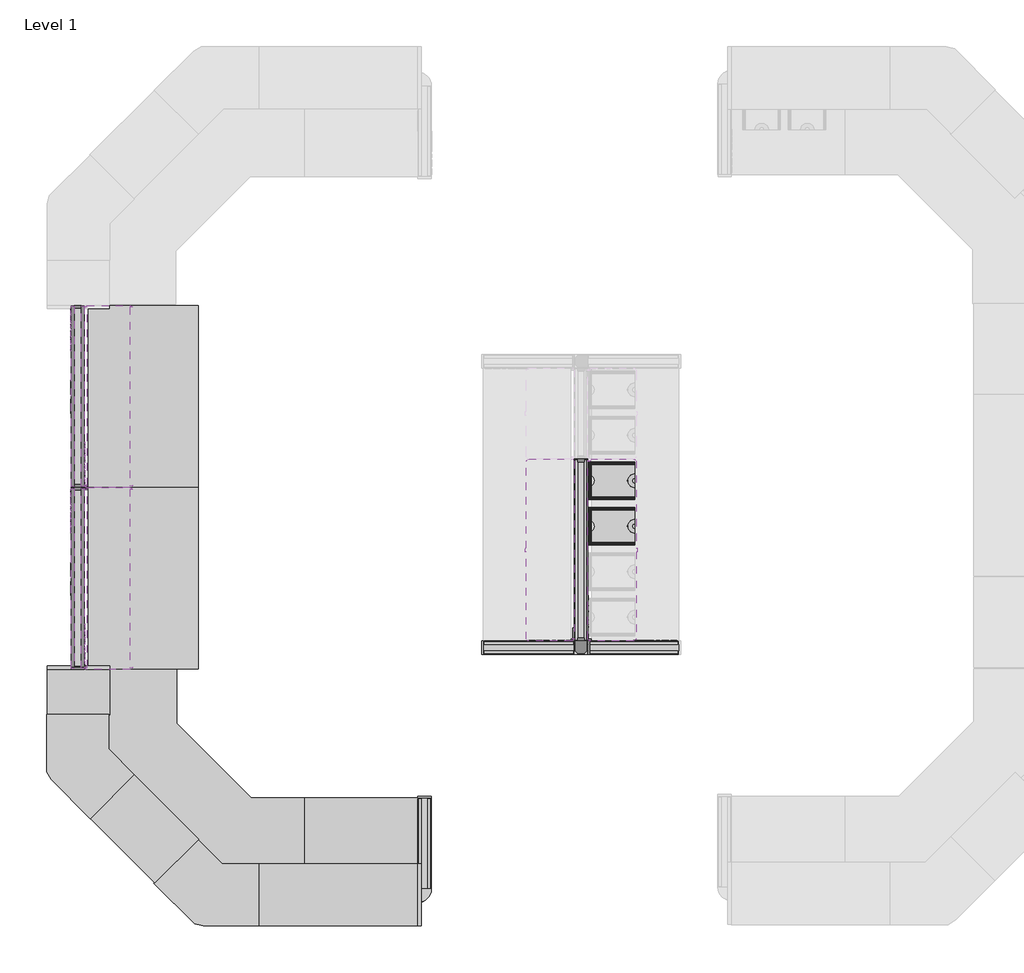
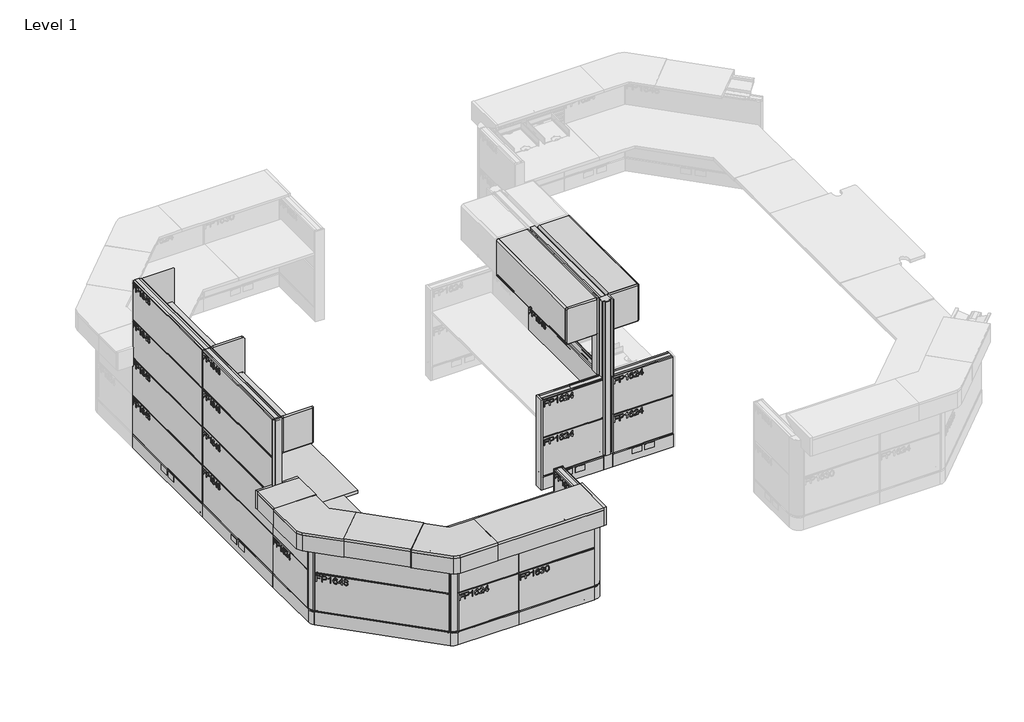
# One storey, part 1 of 3: 110 furniture elements.
"""IFC4 building model written with IfcOpenShell, lengths in millimetres."""

from ifc_helpers import new_model, si_unit, origin, place, context, project, spatial, transform, mapped, element, save
from components import furniture_050a35a8, furniture_49c90ff6, furniture_c8d20b4e, furniture_f6e7f18d, furniture_a86162da, furniture_dabdfb29, furniture_df6beef7, furniture_9c7ec0bd, furniture_8828cb60, furniture_25a45a0c, furniture_0245ad47, furniture_adfb5ce8, furniture_6d6b46e4, furniture_1e165847, furniture_f9b3eec1, furniture_44389360, furniture_d1243616, furniture_9dcc6860, furniture_4f5ec0d2, furniture_c9bda4e8, furniture_81fe7897, furniture_8bbf410e, furniture_7175fb00, furniture_e496f4a3, furniture_9ef934da, furniture_2b4b025d, furniture_bb47e685, furniture_82e04d0f, furniture_d0e672ad, furniture_481bf6a0, furniture_f3e254ba, furniture_135_deg_68790faa, furniture_135_deg_corner_e0015eda, furniture_24d_left_781ecdd2, furniture_24d_right_b8f5cfed, furniture_30d_left_232e12f7, furniture_30d_right_d35b987e, furniture_68980961, furniture_c74ffdfc, end_cap_54c5994d, lam_24d_30w_89995873, lam_30d_48w_5cb6845a, left_ebece1d7, left_d4cbb337

model = new_model("IFC4")

# Units and contexts
model_context = context("Model", 3, world=origin())
ifc_project = project(units=[si_unit("LENGTHUNIT", "METRE", prefix="MILLI")], contexts=[model_context])

# Site, building, storey
site = spatial("IfcSite", under=ifc_project)
building = spatial("IfcBuilding", under=site)
storey = spatial("IfcBuildingStorey", under=building, Name="Level 1", Elevation=0.0)

# Furniture
placement = place(None, origin())
furniture_shape = furniture_050a35a8(model_context)
element("IfcFurniture", 1, ObjectType="HermanMiller_Ethospace_EWS73_F_Sq-Edge135WorkSurfaceDouble_FrameAttached : Ptd 24D 48W", at=placement, inside=storey, context=model_context, shape_type="MappedRepresentation", body=[
    mapped(furniture_shape, transform((673.8049052, 888.3648608, 0.0), x_axis=(-1.0, 0.0, 0.0), y_axis=(0.0, -1.0, 0.0), z_axis=(0.0, 0.0, 1.0))),
])
furniture_2_shape = furniture_49c90ff6(model_context)
element("IfcFurniture", 2, ObjectType="HermanMiller_Ethospace_E3230_B-StyleShelf : 15-1/2\"H x 13\"D x 48\"W", at=placement, inside=storey, context=model_context, shape_type="MappedRepresentation", body=[
    mapped(furniture_2_shape, transform((425.83608, 3675.9186445, 0.0), x_axis=(0.0, 1.0, 0.0), y_axis=(-1.0, 0.0, 0.0), z_axis=(0.0, 0.0, 1.0))),
])
element("IfcFurniture", 3, ObjectType="HermanMiller_Ethospace_E3230_B-StyleShelf : 15-1/2\"H x 13\"D x 48\"W", at=placement, inside=storey, context=model_context, shape_type="MappedRepresentation", body=[
    mapped(furniture_2_shape, transform((425.83608, 2456.7186445, 0.0), x_axis=(0.0, 1.0, 0.0), y_axis=(-1.0, 0.0, 0.0), z_axis=(0.0, 0.0, 1.0))),
])
furniture_3_shape = furniture_c8d20b4e(model_context)
element("IfcFurniture", 4, ObjectType="HermanMiller_Ethospace_E3212_B-StyleFlipperDoorUnit : Ptd W/Lock 13\"D x 48\"W", at=placement, inside=storey, context=model_context, shape_type="MappedRepresentation", body=[
    mapped(furniture_3_shape, transform((3357.52186, 2522.99978, 0.0), x_axis=(0.0, -1.0, 0.0), y_axis=(1.0, 0.0, 0.0), z_axis=(0.0, 0.0, 1.0))),
])
element("IfcFurniture", 5, ObjectType="HermanMiller_Ethospace_E3212_B-StyleFlipperDoorUnit : Ptd W/Lock 13\"D x 48\"W", at=placement, inside=storey, context=model_context, shape_type="MappedRepresentation", body=[
    mapped(furniture_3_shape, transform((3795.67186, 2522.99978, 0.0), x_axis=(0.0, 1.0, 0.0), y_axis=(-1.0, 0.0, 0.0), z_axis=(0.0, 0.0, 1.0))),
])
furniture_4_shape = furniture_f6e7f18d(model_context)
element("IfcFurniture", 6, ObjectType="HermanMiller_Ethospace_E2830_SqEdgeCounterTop : 7-1/2\"H x 16-3/8\"D x 42\"W", at=placement, inside=storey, context=model_context, shape_type="MappedRepresentation", body=[
    mapped(furniture_4_shape, transform((1951.13402, 211.78266, 0.0), x_axis=(-1.0, 0.0, 0.0), y_axis=(0.0, -1.0, 0.0), z_axis=(0.0, 0.0, 1.0))),
])
furniture_5_shape = furniture_a86162da(model_context)
element("IfcFurniture", 7, ObjectType="HermanMiller_Ethospace_E2830_SqEdgeCounterTop : 7-1/2\"H x 16-3/8\"D x 24\"W", at=placement, inside=storey, context=model_context, shape_type="MappedRepresentation", body=[
    mapped(furniture_5_shape, transform((654.4192656, 654.4538794, 0.0), x_axis=(-0.7071067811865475, 0.7071067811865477, 0.0), y_axis=(-0.7071067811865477, -0.7071067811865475, 0.0), z_axis=(0.0, 0.0, 1.0))),
])
furniture_6_shape = furniture_dabdfb29(model_context)
element("IfcFurniture", 8, ObjectType="HermanMiller_Ethospace_E2830_SqEdgeCounterTop : 7-1/2\"H x 16-3/8\"D x 12\"W", at=placement, inside=storey, context=model_context, shape_type="MappedRepresentation", body=[
    mapped(furniture_6_shape, transform((211.14766, 1570.77664, 0.0), x_axis=(0.0, 1.0, 0.0), y_axis=(-1.0, 0.0, 0.0), z_axis=(0.0, 0.0, 1.0))),
])
furniture_7_shape = furniture_df6beef7(model_context)
element("IfcFurniture", 9, ObjectType="HermanMiller_Ethospace_E2827_CounterTopSupport : 48\"W W/Light", at=placement, inside=storey, context=model_context, shape_type="MappedRepresentation", body=[
    mapped(furniture_7_shape, transform((659.4278787, 660.0686064, 0.0), x_axis=(-0.7071067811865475, 0.7071067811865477, 0.0), y_axis=(-0.7071067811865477, -0.7071067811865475, 0.0), z_axis=(0.0, 0.0, 1.0))),
])
furniture_8_shape = furniture_9c7ec0bd(model_context)
element("IfcFurniture", 10, ObjectType="HermanMiller_Ethospace_E2827_CounterTopSupport : 30\"W W/Light", at=placement, inside=storey, context=model_context, shape_type="MappedRepresentation", body=[
    mapped(furniture_8_shape, transform((2103.53402, 219.72016, 0.0), x_axis=(-1.0, 0.0, 0.0), y_axis=(0.0, -1.0, 0.0), z_axis=(0.0, 0.0, 1.0))),
])
furniture_9_shape = furniture_8828cb60(model_context)
element("IfcFurniture", 11, ObjectType="HermanMiller_Ethospace_E2827_CounterTopSupport : 24\"W W/Light", at=placement, inside=storey, context=model_context, shape_type="MappedRepresentation", body=[
    mapped(furniture_9_shape, transform((219.08516, 1418.37664, 0.0), x_axis=(0.0, 1.0, 0.0), y_axis=(-1.0, 0.0, 0.0), z_axis=(0.0, 0.0, 1.0))),
])
element("IfcFurniture", 12, ObjectType="HermanMiller_Ethospace_E2827_CounterTopSupport : 24\"W W/Light", at=placement, inside=storey, context=model_context, shape_type="MappedRepresentation", body=[
    mapped(furniture_9_shape, transform((1418.32838, 219.72016, 0.0), x_axis=(-1.0, 0.0, 0.0), y_axis=(0.0, -1.0, 0.0), z_axis=(0.0, 0.0, 1.0))),
])
furniture_10_shape = furniture_25a45a0c(model_context)
element("IfcFurniture", 13, ObjectType="HermanMiller_Ethospace_E1425_RailTile : 08\"H x 48\"W", at=placement, inside=storey, context=model_context, shape_type="MappedRepresentation", body=[
    mapped(furniture_10_shape, transform((3598.82186, 2522.99978, 0.0), x_axis=(0.0, 1.0, 0.0), y_axis=(-1.0, 0.0, 0.0), z_axis=(0.0, 0.0, 1.0))),
])
furniture_11_shape = furniture_0245ad47(model_context)
element("IfcFurniture", 14, ObjectType="HermanMiller_Ethospace_E1420_FaceTile : Ptd 16\"H x 48\"W", at=placement, inside=storey, context=model_context, shape_type="MappedRepresentation", body=[
    mapped(furniture_11_shape, transform((628.0001657, 628.642138, 0.0), x_axis=(0.7071067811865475, -0.7071067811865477, 0.0), y_axis=(0.7071067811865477, 0.7071067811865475, 0.0), z_axis=(0.0, 0.0, 1.0))),
])
element("IfcFurniture", 15, ObjectType="HermanMiller_Ethospace_E1420_FaceTile : Ptd 16\"H x 48\"W", at=placement, inside=storey, context=model_context, shape_type="MappedRepresentation", body=[
    mapped(furniture_11_shape, transform((671.2174543, 671.860722, 0.0), x_axis=(-0.7071067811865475, 0.7071067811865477, 0.0), y_axis=(-0.7071067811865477, -0.7071067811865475, 0.0), z_axis=(0.0, 0.0, 1.0))),
])
element("IfcFurniture", 16, ObjectType="HermanMiller_Ethospace_E1420_FaceTile : Ptd 16\"H x 48\"W", at=placement, inside=storey, context=model_context, shape_type="MappedRepresentation", body=[
    mapped(furniture_11_shape, transform((174.6300739, 2332.77664, 0.0), x_axis=(0.0, -1.0, 0.0), y_axis=(1.0, 0.0, 0.0), z_axis=(0.0, 0.0, 1.0))),
])
element("IfcFurniture", 17, ObjectType="HermanMiller_Ethospace_E1420_FaceTile : Ptd 16\"H x 48\"W", at=placement, inside=storey, context=model_context, shape_type="MappedRepresentation", body=[
    mapped(furniture_11_shape, transform((238.1300861, 2332.77664, 0.0), x_axis=(0.0, 1.0, 0.0), y_axis=(-1.0, 0.0, 0.0), z_axis=(0.0, 0.0, 1.0))),
])
element("IfcFurniture", 18, ObjectType="HermanMiller_Ethospace_E1420_FaceTile : Ptd 16\"H x 48\"W", at=placement, inside=storey, context=model_context, shape_type="MappedRepresentation", body=[
    mapped(furniture_11_shape, transform((174.6300739, 3551.97664, 0.0), x_axis=(0.0, -1.0, 0.0), y_axis=(1.0, 0.0, 0.0), z_axis=(0.0, 0.0, 1.0))),
])
element("IfcFurniture", 19, ObjectType="HermanMiller_Ethospace_E1420_FaceTile : Ptd 16\"H x 48\"W", at=placement, inside=storey, context=model_context, shape_type="MappedRepresentation", body=[
    mapped(furniture_11_shape, transform((238.1300861, 3551.97664, 0.0), x_axis=(0.0, 1.0, 0.0), y_axis=(-1.0, 0.0, 0.0), z_axis=(0.0, 0.0, 1.0))),
])
element("IfcFurniture", 20, ObjectType="HermanMiller_Ethospace_E1420_FaceTile : Ptd 16\"H x 48\"W", at=placement, inside=storey, context=model_context, shape_type="MappedRepresentation", body=[
    mapped(furniture_11_shape, transform((3544.8468539, 2522.99978, 0.0), x_axis=(0.0, -1.0, 0.0), y_axis=(1.0, 0.0, 0.0), z_axis=(0.0, 0.0, 1.0))),
])
element("IfcFurniture", 21, ObjectType="HermanMiller_Ethospace_E1420_FaceTile : Ptd 16\"H x 48\"W", at=placement, inside=storey, context=model_context, shape_type="MappedRepresentation", body=[
    mapped(furniture_11_shape, transform((3608.3468661, 2522.99978, 0.0), x_axis=(0.0, 1.0, 0.0), y_axis=(-1.0, 0.0, 0.0), z_axis=(0.0, 0.0, 1.0))),
])
element("IfcFurniture", 22, ObjectType="HermanMiller_Ethospace_E1420_FaceTile : Ptd 16\"H x 48\"W", at=placement, inside=storey, context=model_context, shape_type="MappedRepresentation", body=[
    mapped(furniture_11_shape, transform((3544.8468539, 2522.99978, 0.0), x_axis=(0.0, -1.0, 0.0), y_axis=(1.0, 0.0, 0.0), z_axis=(0.0, 0.0, 1.0))),
])
element("IfcFurniture", 23, ObjectType="HermanMiller_Ethospace_E1420_FaceTile : Ptd 16\"H x 48\"W", at=placement, inside=storey, context=model_context, shape_type="MappedRepresentation", body=[
    mapped(furniture_11_shape, transform((3608.3468661, 2522.99978, 0.0), x_axis=(0.0, 1.0, 0.0), y_axis=(-1.0, 0.0, 0.0), z_axis=(0.0, 0.0, 1.0))),
])
furniture_12_shape = furniture_adfb5ce8(model_context)
element("IfcFurniture", 24, ObjectType="HermanMiller_Ethospace_E1420_FaceTile : Ptd 16\"H x 48\"W", at=placement, inside=storey, context=model_context, shape_type="MappedRepresentation", body=[
    mapped(furniture_12_shape, transform((671.2174543, 671.860722, 0.0), x_axis=(-0.7071067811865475, 0.7071067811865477, 0.0), y_axis=(-0.7071067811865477, -0.7071067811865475, 0.0), z_axis=(0.0, 0.0, 1.0))),
])
element("IfcFurniture", 25, ObjectType="HermanMiller_Ethospace_E1420_FaceTile : Ptd 16\"H x 48\"W", at=placement, inside=storey, context=model_context, shape_type="MappedRepresentation", body=[
    mapped(furniture_12_shape, transform((628.0001657, 628.642138, 0.0), x_axis=(0.7071067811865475, -0.7071067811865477, 0.0), y_axis=(0.7071067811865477, 0.7071067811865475, 0.0), z_axis=(0.0, 0.0, 1.0))),
])
element("IfcFurniture", 26, ObjectType="HermanMiller_Ethospace_E1420_FaceTile : Ptd 16\"H x 48\"W", at=placement, inside=storey, context=model_context, shape_type="MappedRepresentation", body=[
    mapped(furniture_12_shape, transform((174.6300739, 2332.77664, 0.0), x_axis=(0.0, -1.0, 0.0), y_axis=(1.0, 0.0, 0.0), z_axis=(0.0, 0.0, 1.0))),
])
element("IfcFurniture", 27, ObjectType="HermanMiller_Ethospace_E1420_FaceTile : Ptd 16\"H x 48\"W", at=placement, inside=storey, context=model_context, shape_type="MappedRepresentation", body=[
    mapped(furniture_12_shape, transform((238.1300861, 2332.77664, 0.0), x_axis=(0.0, 1.0, 0.0), y_axis=(-1.0, 0.0, 0.0), z_axis=(0.0, 0.0, 1.0))),
])
element("IfcFurniture", 28, ObjectType="HermanMiller_Ethospace_E1420_FaceTile : Ptd 16\"H x 48\"W", at=placement, inside=storey, context=model_context, shape_type="MappedRepresentation", body=[
    mapped(furniture_12_shape, transform((238.1300861, 3551.97664, 0.0), x_axis=(0.0, 1.0, 0.0), y_axis=(-1.0, 0.0, 0.0), z_axis=(0.0, 0.0, 1.0))),
])
element("IfcFurniture", 29, ObjectType="HermanMiller_Ethospace_E1420_FaceTile : Ptd 16\"H x 48\"W", at=placement, inside=storey, context=model_context, shape_type="MappedRepresentation", body=[
    mapped(furniture_12_shape, transform((174.6300739, 3551.97664, 0.0), x_axis=(0.0, -1.0, 0.0), y_axis=(1.0, 0.0, 0.0), z_axis=(0.0, 0.0, 1.0))),
])
element("IfcFurniture", 30, ObjectType="HermanMiller_Ethospace_E1420_FaceTile : Ptd 16\"H x 48\"W", at=placement, inside=storey, context=model_context, shape_type="MappedRepresentation", body=[
    mapped(furniture_12_shape, transform((3544.8468539, 2522.99978, 0.0), x_axis=(0.0, -1.0, 0.0), y_axis=(1.0, 0.0, 0.0), z_axis=(0.0, 0.0, 1.0))),
])
furniture_13_shape = furniture_6d6b46e4(model_context)
element("IfcFurniture", 31, ObjectType="HermanMiller_Ethospace_E1420_FaceTile : Ptd 16\"H x 48\"W", at=placement, inside=storey, context=model_context, shape_type="MappedRepresentation", body=[
    mapped(furniture_13_shape, transform((238.1300861, 2332.77664, 0.0), x_axis=(0.0, 1.0, 0.0), y_axis=(-1.0, 0.0, 0.0), z_axis=(0.0, 0.0, 1.0))),
])
element("IfcFurniture", 32, ObjectType="HermanMiller_Ethospace_E1420_FaceTile : Ptd 16\"H x 48\"W", at=placement, inside=storey, context=model_context, shape_type="MappedRepresentation", body=[
    mapped(furniture_13_shape, transform((174.6300739, 2332.77664, 0.0), x_axis=(0.0, -1.0, 0.0), y_axis=(1.0, 0.0, 0.0), z_axis=(0.0, 0.0, 1.0))),
])
element("IfcFurniture", 33, ObjectType="HermanMiller_Ethospace_E1420_FaceTile : Ptd 16\"H x 48\"W", at=placement, inside=storey, context=model_context, shape_type="MappedRepresentation", body=[
    mapped(furniture_13_shape, transform((238.1300861, 3551.97664, 0.0), x_axis=(0.0, 1.0, 0.0), y_axis=(-1.0, 0.0, 0.0), z_axis=(0.0, 0.0, 1.0))),
])
element("IfcFurniture", 34, ObjectType="HermanMiller_Ethospace_E1420_FaceTile : Ptd 16\"H x 48\"W", at=placement, inside=storey, context=model_context, shape_type="MappedRepresentation", body=[
    mapped(furniture_13_shape, transform((174.6300739, 3551.97664, 0.0), x_axis=(0.0, -1.0, 0.0), y_axis=(1.0, 0.0, 0.0), z_axis=(0.0, 0.0, 1.0))),
])
furniture_14_shape = furniture_1e165847(model_context)
element("IfcFurniture", 35, ObjectType="HermanMiller_Ethospace_E1420_FaceTile : Ptd 16\"H x 48\"W", at=placement, inside=storey, context=model_context, shape_type="MappedRepresentation", body=[
    mapped(furniture_14_shape, transform((238.1300861, 2332.77664, 0.0), x_axis=(0.0, 1.0, 0.0), y_axis=(-1.0, 0.0, 0.0), z_axis=(0.0, 0.0, 1.0))),
])
element("IfcFurniture", 36, ObjectType="HermanMiller_Ethospace_E1420_FaceTile : Ptd 16\"H x 48\"W", at=placement, inside=storey, context=model_context, shape_type="MappedRepresentation", body=[
    mapped(furniture_14_shape, transform((174.6300739, 2332.77664, 0.0), x_axis=(0.0, -1.0, 0.0), y_axis=(1.0, 0.0, 0.0), z_axis=(0.0, 0.0, 1.0))),
])
element("IfcFurniture", 37, ObjectType="HermanMiller_Ethospace_E1420_FaceTile : Ptd 16\"H x 48\"W", at=placement, inside=storey, context=model_context, shape_type="MappedRepresentation", body=[
    mapped(furniture_14_shape, transform((174.6300739, 3551.97664, 0.0), x_axis=(0.0, -1.0, 0.0), y_axis=(1.0, 0.0, 0.0), z_axis=(0.0, 0.0, 1.0))),
])
element("IfcFurniture", 38, ObjectType="HermanMiller_Ethospace_E1420_FaceTile : Ptd 16\"H x 48\"W", at=placement, inside=storey, context=model_context, shape_type="MappedRepresentation", body=[
    mapped(furniture_14_shape, transform((238.1300861, 3551.97664, 0.0), x_axis=(0.0, 1.0, 0.0), y_axis=(-1.0, 0.0, 0.0), z_axis=(0.0, 0.0, 1.0))),
])
furniture_15_shape = furniture_f9b3eec1(model_context)
element("IfcFurniture", 39, ObjectType="HermanMiller_Ethospace_E1420_FaceTile : Ptd 16\"H x 30\"W", at=placement, inside=storey, context=model_context, shape_type="MappedRepresentation", body=[
    mapped(furniture_15_shape, transform((2103.53402, 175.2701539, 0.0), x_axis=(1.0, 0.0, 0.0), y_axis=(0.0, 1.0, 0.0), z_axis=(0.0, 0.0, 1.0))),
])
element("IfcFurniture", 40, ObjectType="HermanMiller_Ethospace_E1420_FaceTile : Ptd 16\"H x 30\"W", at=placement, inside=storey, context=model_context, shape_type="MappedRepresentation", body=[
    mapped(furniture_15_shape, transform((2103.53402, 238.7701661, 0.0), x_axis=(-1.0, 0.0, 0.0), y_axis=(0.0, -1.0, 0.0), z_axis=(0.0, 0.0, 1.0))),
])
furniture_16_shape = furniture_44389360(model_context)
element("IfcFurniture", 41, ObjectType="HermanMiller_Ethospace_E1420_FaceTile : Ptd 16\"H x 30\"W", at=placement, inside=storey, context=model_context, shape_type="MappedRepresentation", body=[
    mapped(furniture_16_shape, transform((2103.53402, 175.2701539, 0.0), x_axis=(1.0, 0.0, 0.0), y_axis=(0.0, 1.0, 0.0), z_axis=(0.0, 0.0, 1.0))),
])
element("IfcFurniture", 42, ObjectType="HermanMiller_Ethospace_E1420_FaceTile : Ptd 16\"H x 30\"W", at=placement, inside=storey, context=model_context, shape_type="MappedRepresentation", body=[
    mapped(furniture_16_shape, transform((2103.53402, 238.7701661, 0.0), x_axis=(-1.0, 0.0, 0.0), y_axis=(0.0, -1.0, 0.0), z_axis=(0.0, 0.0, 1.0))),
])
furniture_17_shape = furniture_d1243616(model_context)
element("IfcFurniture", 43, ObjectType="HermanMiller_Ethospace_E1420_FaceTile : Ptd 16\"H x 24\"W", at=placement, inside=storey, context=model_context, shape_type="MappedRepresentation", body=[
    mapped(furniture_17_shape, transform((2559.9415461, 556.27016, 0.0), x_axis=(0.0, 1.0, 0.0), y_axis=(-1.0, 0.0, 0.0), z_axis=(0.0, 0.0, 1.0))),
])
element("IfcFurniture", 44, ObjectType="HermanMiller_Ethospace_E1420_FaceTile : Ptd 16\"H x 24\"W", at=placement, inside=storey, context=model_context, shape_type="MappedRepresentation", body=[
    mapped(furniture_17_shape, transform((2497.2340139, 556.27016, 0.0), x_axis=(0.0, -1.0, 0.0), y_axis=(1.0, 0.0, 0.0), z_axis=(0.0, 0.0, 1.0))),
])
element("IfcFurniture", 45, ObjectType="HermanMiller_Ethospace_E1420_FaceTile : Ptd 16\"H x 24\"W", at=placement, inside=storey, context=model_context, shape_type="MappedRepresentation", body=[
    mapped(furniture_17_shape, transform((174.6300739, 1418.37664, 0.0), x_axis=(0.0, -1.0, 0.0), y_axis=(1.0, 0.0, 0.0), z_axis=(0.0, 0.0, 1.0))),
])
element("IfcFurniture", 46, ObjectType="HermanMiller_Ethospace_E1420_FaceTile : Ptd 16\"H x 24\"W", at=placement, inside=storey, context=model_context, shape_type="MappedRepresentation", body=[
    mapped(furniture_17_shape, transform((238.1300861, 1418.37664, 0.0), x_axis=(0.0, 1.0, 0.0), y_axis=(-1.0, 0.0, 0.0), z_axis=(0.0, 0.0, 1.0))),
])
element("IfcFurniture", 47, ObjectType="HermanMiller_Ethospace_E1420_FaceTile : Ptd 16\"H x 24\"W", at=placement, inside=storey, context=model_context, shape_type="MappedRepresentation", body=[
    mapped(furniture_17_shape, transform((1417.73402, 175.2701539, 0.0), x_axis=(1.0, 0.0, 0.0), y_axis=(0.0, 1.0, 0.0), z_axis=(0.0, 0.0, 1.0))),
])
element("IfcFurniture", 48, ObjectType="HermanMiller_Ethospace_E1420_FaceTile : Ptd 16\"H x 24\"W", at=placement, inside=storey, context=model_context, shape_type="MappedRepresentation", body=[
    mapped(furniture_17_shape, transform((1417.73402, 238.7701661, 0.0), x_axis=(-1.0, 0.0, 0.0), y_axis=(0.0, -1.0, 0.0), z_axis=(0.0, 0.0, 1.0))),
])
element("IfcFurniture", 49, ObjectType="HermanMiller_Ethospace_E1420_FaceTile : Ptd 16\"H x 24\"W", at=placement, inside=storey, context=model_context, shape_type="MappedRepresentation", body=[
    mapped(furniture_17_shape, transform((3227.34686, 1900.6997861, 0.0), x_axis=(-1.0, 0.0, 0.0), y_axis=(0.0, -1.0, 0.0), z_axis=(0.0, 0.0, 1.0))),
])
element("IfcFurniture", 50, ObjectType="HermanMiller_Ethospace_E1420_FaceTile : Ptd 16\"H x 24\"W", at=placement, inside=storey, context=model_context, shape_type="MappedRepresentation", body=[
    mapped(furniture_17_shape, transform((3227.34686, 1837.1997739, 0.0), x_axis=(1.0, 0.0, 0.0), y_axis=(0.0, 1.0, 0.0), z_axis=(0.0, 0.0, 1.0))),
])
element("IfcFurniture", 51, ObjectType="HermanMiller_Ethospace_E1420_FaceTile : Ptd 16\"H x 24\"W", at=placement, inside=storey, context=model_context, shape_type="MappedRepresentation", body=[
    mapped(furniture_17_shape, transform((3925.84686, 1900.6997861, 0.0), x_axis=(-1.0, 0.0, 0.0), y_axis=(0.0, -1.0, 0.0), z_axis=(0.0, 0.0, 1.0))),
])
element("IfcFurniture", 52, ObjectType="HermanMiller_Ethospace_E1420_FaceTile : Ptd 16\"H x 24\"W", at=placement, inside=storey, context=model_context, shape_type="MappedRepresentation", body=[
    mapped(furniture_17_shape, transform((3925.84686, 1837.1997739, 0.0), x_axis=(1.0, 0.0, 0.0), y_axis=(0.0, 1.0, 0.0), z_axis=(0.0, 0.0, 1.0))),
])
furniture_18_shape = furniture_9dcc6860(model_context)
element("IfcFurniture", 53, ObjectType="HermanMiller_Ethospace_E1420_FaceTile : Ptd 16\"H x 24\"W", at=placement, inside=storey, context=model_context, shape_type="MappedRepresentation", body=[
    mapped(furniture_18_shape, transform((1417.73402, 238.7701661, 0.0), x_axis=(-1.0, 0.0, 0.0), y_axis=(0.0, -1.0, 0.0), z_axis=(0.0, 0.0, 1.0))),
])
element("IfcFurniture", 54, ObjectType="HermanMiller_Ethospace_E1420_FaceTile : Ptd 16\"H x 24\"W", at=placement, inside=storey, context=model_context, shape_type="MappedRepresentation", body=[
    mapped(furniture_18_shape, transform((2559.9415461, 556.27016, 0.0), x_axis=(0.0, 1.0, 0.0), y_axis=(-1.0, 0.0, 0.0), z_axis=(0.0, 0.0, 1.0))),
])
element("IfcFurniture", 55, ObjectType="HermanMiller_Ethospace_E1420_FaceTile : Ptd 16\"H x 24\"W", at=placement, inside=storey, context=model_context, shape_type="MappedRepresentation", body=[
    mapped(furniture_18_shape, transform((2497.2340139, 556.27016, 0.0), x_axis=(0.0, -1.0, 0.0), y_axis=(1.0, 0.0, 0.0), z_axis=(0.0, 0.0, 1.0))),
])
element("IfcFurniture", 56, ObjectType="HermanMiller_Ethospace_E1420_FaceTile : Ptd 16\"H x 24\"W", at=placement, inside=storey, context=model_context, shape_type="MappedRepresentation", body=[
    mapped(furniture_18_shape, transform((238.1300861, 1418.37664, 0.0), x_axis=(0.0, 1.0, 0.0), y_axis=(-1.0, 0.0, 0.0), z_axis=(0.0, 0.0, 1.0))),
])
element("IfcFurniture", 57, ObjectType="HermanMiller_Ethospace_E1420_FaceTile : Ptd 16\"H x 24\"W", at=placement, inside=storey, context=model_context, shape_type="MappedRepresentation", body=[
    mapped(furniture_18_shape, transform((174.6300739, 1418.37664, 0.0), x_axis=(0.0, -1.0, 0.0), y_axis=(1.0, 0.0, 0.0), z_axis=(0.0, 0.0, 1.0))),
])
element("IfcFurniture", 58, ObjectType="HermanMiller_Ethospace_E1420_FaceTile : Ptd 16\"H x 24\"W", at=placement, inside=storey, context=model_context, shape_type="MappedRepresentation", body=[
    mapped(furniture_18_shape, transform((1417.73402, 175.2701539, 0.0), x_axis=(1.0, 0.0, 0.0), y_axis=(0.0, 1.0, 0.0), z_axis=(0.0, 0.0, 1.0))),
])
element("IfcFurniture", 59, ObjectType="HermanMiller_Ethospace_E1420_FaceTile : Ptd 16\"H x 24\"W", at=placement, inside=storey, context=model_context, shape_type="MappedRepresentation", body=[
    mapped(furniture_18_shape, transform((3227.34686, 1900.6997861, 0.0), x_axis=(-1.0, 0.0, 0.0), y_axis=(0.0, -1.0, 0.0), z_axis=(0.0, 0.0, 1.0))),
])
element("IfcFurniture", 60, ObjectType="HermanMiller_Ethospace_E1420_FaceTile : Ptd 16\"H x 24\"W", at=placement, inside=storey, context=model_context, shape_type="MappedRepresentation", body=[
    mapped(furniture_18_shape, transform((3227.34686, 1837.1997739, 0.0), x_axis=(1.0, 0.0, 0.0), y_axis=(0.0, 1.0, 0.0), z_axis=(0.0, 0.0, 1.0))),
])
element("IfcFurniture", 61, ObjectType="HermanMiller_Ethospace_E1420_FaceTile : Ptd 16\"H x 24\"W", at=placement, inside=storey, context=model_context, shape_type="MappedRepresentation", body=[
    mapped(furniture_18_shape, transform((3925.84686, 1900.6997861, 0.0), x_axis=(-1.0, 0.0, 0.0), y_axis=(0.0, -1.0, 0.0), z_axis=(0.0, 0.0, 1.0))),
])
element("IfcFurniture", 62, ObjectType="HermanMiller_Ethospace_E1420_FaceTile : Ptd 16\"H x 24\"W", at=placement, inside=storey, context=model_context, shape_type="MappedRepresentation", body=[
    mapped(furniture_18_shape, transform((3925.84686, 1837.1997739, 0.0), x_axis=(1.0, 0.0, 0.0), y_axis=(0.0, 1.0, 0.0), z_axis=(0.0, 0.0, 1.0))),
])
furniture_19_shape = furniture_4f5ec0d2(model_context)
element("IfcFurniture", 63, ObjectType="HermanMiller_Ethospace_E1420_FaceTile : Ptd 08\"H x 48\"W", at=placement, inside=storey, context=model_context, shape_type="MappedRepresentation", body=[
    mapped(furniture_19_shape, transform((3608.3468661, 2522.99978, 0.0), x_axis=(0.0, 1.0, 0.0), y_axis=(-1.0, 0.0, 0.0), z_axis=(0.0, 0.0, 1.0))),
])
furniture_20_shape = furniture_c9bda4e8(model_context)
element("IfcFurniture", 64, ObjectType="HermanMiller_Ethospace_E1251_FinishedEndChangeOfHeight : Std Ptd 32\"H", at=placement, inside=storey, context=model_context, shape_type="MappedRepresentation", body=[
    mapped(furniture_20_shape, transform((3526.7762582, 1952.0535744, 0.0), x_axis=(-1.0, 0.0, 0.0), y_axis=(0.0, -1.0, 0.0), z_axis=(0.0, 0.0, 1.0))),
])
element("IfcFurniture", 65, ObjectType="HermanMiller_Ethospace_E1251_FinishedEndChangeOfHeight : Std Ptd 32\"H", at=placement, inside=storey, context=model_context, shape_type="MappedRepresentation", body=[
    mapped(furniture_20_shape, transform((3626.4301618, 1874.7459856, 0.0), x_axis=(1.0, 0.0, 0.0), y_axis=(0.0, 1.0, 0.0), z_axis=(0.0, 0.0, 1.0))),
])
furniture_21_shape = furniture_81fe7897(model_context)
element("IfcFurniture", 66, ObjectType="HermanMiller_Ethospace_E1251_FinishedEndChangeOfHeight : Std Ptd 28\"H", at=placement, inside=storey, context=model_context, shape_type="MappedRepresentation", body=[
    mapped(furniture_21_shape, transform((211.8206856, 1730.5060382, 0.0), x_axis=(0.0, -1.0, 0.0), y_axis=(1.0, 0.0, 0.0), z_axis=(0.0, 0.0, 1.0))),
])
furniture_22_shape = furniture_8bbf410e(model_context)
element("IfcFurniture", 67, ObjectType="HermanMiller_Ethospace_E1250_FinishedEnd : Std Ptd 38\"H", at=placement, inside=storey, context=model_context, shape_type="MappedRepresentation", body=[
    mapped(furniture_22_shape, transform((2522.3953344, 866.5855418, 0.0), x_axis=(0.0, 1.0, 0.0), y_axis=(-1.0, 0.0, 0.0), z_axis=(0.0, 0.0, 1.0))),
])
element("IfcFurniture", 68, ObjectType="HermanMiller_Ethospace_E1250_FinishedEnd : Std Ptd 38\"H", at=placement, inside=storey, context=model_context, shape_type="MappedRepresentation", body=[
    mapped(furniture_22_shape, transform((2917.1762582, 1863.1535744, 0.0), x_axis=(-1.0, 0.0, 0.0), y_axis=(0.0, -1.0, 0.0), z_axis=(0.0, 0.0, 1.0))),
])
furniture_23_shape = furniture_7175fb00(model_context)
element("IfcFurniture", 69, ObjectType="HermanMiller_Ethospace_E1220_90DegreeConnector : Vnyl 70\"H 3-Way-N", at=placement, inside=storey, context=model_context, shape_type="MappedRepresentation", body=[
    mapped(furniture_23_shape, transform((3551.1968581, 1860.7845699, 0.0), x_axis=(1.0, 0.0, 0.0), y_axis=(0.0, 1.0, 0.0), z_axis=(0.0, 0.0, 1.0))),
])
furniture_24_shape = furniture_e496f4a3(model_context)
element("IfcFurniture", 70, ObjectType="HermanMiller_Ethospace_E1220_90DegreeConnector : Vnyl 38\"H 2-Way Rds-N", at=placement, inside=storey, context=model_context, shape_type="MappedRepresentation", body=[
    mapped(furniture_24_shape, transform((2520.8188099, 232.4201619, 0.0), x_axis=(0.0, -1.0, 0.0), y_axis=(1.0, 0.0, 0.0), z_axis=(0.0, 0.0, 1.0))),
])
furniture_25_shape = furniture_9ef934da(model_context)
element("IfcFurniture", 71, ObjectType="HermanMiller_Ethospace_E1109_Frame : 70\"H x 48\"W-H", at=placement, inside=storey, context=model_context, shape_type="MappedRepresentation", body=[
    mapped(furniture_25_shape, transform((206.38008, 2332.77664, 0.0), x_axis=(0.0, -1.0, 0.0), y_axis=(1.0, 0.0, 0.0), z_axis=(0.0, 0.0, 1.0))),
])
element("IfcFurniture", 72, ObjectType="HermanMiller_Ethospace_E1109_Frame : 70\"H x 48\"W-H", at=placement, inside=storey, context=model_context, shape_type="MappedRepresentation", body=[
    mapped(furniture_25_shape, transform((206.38008, 3551.97664, 0.0), x_axis=(0.0, -1.0, 0.0), y_axis=(1.0, 0.0, 0.0), z_axis=(0.0, 0.0, 1.0))),
])
element("IfcFurniture", 73, ObjectType="HermanMiller_Ethospace_E1109_Frame : 70\"H x 48\"W-H", at=placement, inside=storey, context=model_context, shape_type="MappedRepresentation", body=[
    mapped(furniture_25_shape, transform((3576.59686, 2522.99978, 0.0), x_axis=(0.0, -1.0, 0.0), y_axis=(1.0, 0.0, 0.0), z_axis=(0.0, 0.0, 1.0))),
])
furniture_26_shape = furniture_2b4b025d(model_context)
element("IfcFurniture", 74, ObjectType="HermanMiller_Ethospace_E1109_Frame : 38\"H x 48\"W-H", at=placement, inside=storey, context=model_context, shape_type="MappedRepresentation", body=[
    mapped(furniture_26_shape, transform((650.4463526, 651.0870802, 0.0), x_axis=(-0.7071067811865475, 0.7071067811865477, 0.0), y_axis=(-0.7071067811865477, -0.7071067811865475, 0.0), z_axis=(0.0, 0.0, 1.0))),
])
furniture_27_shape = furniture_bb47e685(model_context)
element("IfcFurniture", 75, ObjectType="HermanMiller_Ethospace_E1109_Frame : 38\"H x 30\"W-H", at=placement, inside=storey, context=model_context, shape_type="MappedRepresentation", body=[
    mapped(furniture_27_shape, transform((2103.53402, 207.02016, 0.0), x_axis=(-1.0, 0.0, 0.0), y_axis=(0.0, -1.0, 0.0), z_axis=(0.0, 0.0, 1.0))),
])
furniture_28_shape = furniture_82e04d0f(model_context)
element("IfcFurniture", 76, ObjectType="HermanMiller_Ethospace_E1109_Frame : 38\"H x 24\"W-H", at=placement, inside=storey, context=model_context, shape_type="MappedRepresentation", body=[
    mapped(furniture_28_shape, transform((2528.19154, 556.41494, 0.0), x_axis=(0.0, -1.0, 0.0), y_axis=(1.0, 0.0, 0.0), z_axis=(0.0, 0.0, 1.0))),
])
element("IfcFurniture", 77, ObjectType="HermanMiller_Ethospace_E1109_Frame : 38\"H x 24\"W-H", at=placement, inside=storey, context=model_context, shape_type="MappedRepresentation", body=[
    mapped(furniture_28_shape, transform((206.02448, 1418.37664, 0.0), x_axis=(0.0, 1.0, 0.0), y_axis=(-1.0, 0.0, 0.0), z_axis=(0.0, 0.0, 1.0))),
])
element("IfcFurniture", 78, ObjectType="HermanMiller_Ethospace_E1109_Frame : 38\"H x 24\"W-H", at=placement, inside=storey, context=model_context, shape_type="MappedRepresentation", body=[
    mapped(furniture_28_shape, transform((1417.73402, 207.02016, 0.0), x_axis=(-1.0, 0.0, 0.0), y_axis=(0.0, -1.0, 0.0), z_axis=(0.0, 0.0, 1.0))),
])
element("IfcFurniture", 79, ObjectType="HermanMiller_Ethospace_E1109_Frame : 38\"H x 24\"W-H", at=placement, inside=storey, context=model_context, shape_type="MappedRepresentation", body=[
    mapped(furniture_28_shape, transform((3227.34686, 1868.94978, 0.0), x_axis=(1.0, 0.0, 0.0), y_axis=(0.0, 1.0, 0.0), z_axis=(0.0, 0.0, 1.0))),
])
element("IfcFurniture", 80, ObjectType="HermanMiller_Ethospace_E1109_Frame : 38\"H x 24\"W-H", at=placement, inside=storey, context=model_context, shape_type="MappedRepresentation", body=[
    mapped(furniture_28_shape, transform((3925.85956, 1868.94978, 0.0), x_axis=(1.0, 0.0, 0.0), y_axis=(0.0, 1.0, 0.0), z_axis=(0.0, 0.0, 1.0))),
])
furniture_29_shape = furniture_d0e672ad(model_context)
element("IfcFurniture", 81, ObjectType="HermanMiller_ThrivePortfolio_Y7216_PaperTray : 3\"H x 12\"D x 10\"W", at=placement, inside=storey, context=model_context, shape_type="MappedRepresentation", body=[
    mapped(furniture_29_shape, transform((3781.86188, 2986.42786, 0.0), x_axis=(0.0, 1.0, 0.0), y_axis=(-1.0, 0.0, 0.0), z_axis=(0.0, 0.0, 1.0))),
])
element("IfcFurniture", 82, ObjectType="HermanMiller_ThrivePortfolio_Y7216_PaperTray : 3\"H x 12\"D x 10\"W", at=placement, inside=storey, context=model_context, shape_type="MappedRepresentation", body=[
    mapped(furniture_29_shape, transform((3781.86188, 2681.62786, 0.0), x_axis=(0.0, 1.0, 0.0), y_axis=(-1.0, 0.0, 0.0), z_axis=(0.0, 0.0, 1.0))),
])
element("IfcFurniture", 83, ObjectType="HermanMiller_ThrivePortfolio_Y7216_PaperTray : 3\"H x 12\"D x 10\"W", at=placement, inside=storey, context=model_context, shape_type="MappedRepresentation", body=[
    mapped(furniture_29_shape, transform((3781.86188, 2376.82786, 0.0), x_axis=(0.0, 1.0, 0.0), y_axis=(-1.0, 0.0, 0.0), z_axis=(0.0, 0.0, 1.0))),
])
element("IfcFurniture", 84, ObjectType="HermanMiller_ThrivePortfolio_Y7216_PaperTray : 3\"H x 12\"D x 10\"W", at=placement, inside=storey, context=model_context, shape_type="MappedRepresentation", body=[
    mapped(furniture_29_shape, transform((3781.86188, 2072.02786, 0.0), x_axis=(0.0, 1.0, 0.0), y_axis=(-1.0, 0.0, 0.0), z_axis=(0.0, 0.0, 1.0))),
])
furniture_30_shape = furniture_481bf6a0(model_context)
element("IfcFurniture", 85, ObjectType="HermanMiller_ThrivePortfolio_Y7216_PaperTray : 3\"H x 12\"D x 10\"W", at=placement, inside=storey, context=model_context, shape_type="MappedRepresentation", body=[
    mapped(furniture_30_shape, transform((3781.86188, 2986.42786, 0.0), x_axis=(0.0, 1.0, 0.0), y_axis=(-1.0, 0.0, 0.0), z_axis=(0.0, 0.0, 1.0))),
])
element("IfcFurniture", 86, ObjectType="HermanMiller_ThrivePortfolio_Y7216_PaperTray : 3\"H x 12\"D x 10\"W", at=placement, inside=storey, context=model_context, shape_type="MappedRepresentation", body=[
    mapped(furniture_30_shape, transform((3781.86188, 2681.62786, 0.0), x_axis=(0.0, 1.0, 0.0), y_axis=(-1.0, 0.0, 0.0), z_axis=(0.0, 0.0, 1.0))),
])
furniture_31_shape = furniture_f3e254ba(model_context)
element("IfcFurniture", 87, ObjectType="HermanMiller_ThrivePortfolio_Y7216_PaperTray : 3\"H x 12\"D x 10\"W", at=placement, inside=storey, context=model_context, shape_type="MappedRepresentation", body=[
    mapped(furniture_31_shape, transform((3781.86188, 2986.42786, 0.0), x_axis=(0.0, 1.0, 0.0), y_axis=(-1.0, 0.0, 0.0), z_axis=(0.0, 0.0, 1.0))),
])
furniture_135_deg_shape = furniture_135_deg_68790faa(model_context)
element("IfcFurniture", 88, ObjectType="HermanMiller_Ethospace_E2828_CounterTopSupportFiller : 135 Deg", at=placement, inside=storey, context=model_context, shape_type="MappedRepresentation", body=[
    mapped(furniture_135_deg_shape, transform((196.9427961, 1122.551149, 0.0), x_axis=(-0.7071067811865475, 0.7071067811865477, 0.0), y_axis=(-0.7071067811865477, -0.7071067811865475, 0.0), z_axis=(0.0, 0.0, 1.0))),
])
element("IfcFurniture", 89, ObjectType="HermanMiller_Ethospace_E2828_CounterTopSupportFiller : 135 Deg", at=placement, inside=storey, context=model_context, shape_type="MappedRepresentation", body=[
    mapped(furniture_135_deg_shape, transform((1069.07838, 219.72016, 0.0), x_axis=(-1.0, 0.0, 0.0), y_axis=(0.0, -1.0, 0.0), z_axis=(0.0, 0.0, 1.0))),
])
furniture_135_deg_corner_shape = furniture_135_deg_corner_e0015eda(model_context)
element("IfcFurniture", 90, ObjectType="HermanMiller_Ethospace_E2831_SqEdgeCounterTopCorner : 135 Deg Corner", at=placement, inside=storey, context=model_context, shape_type="MappedRepresentation", body=[
    mapped(furniture_135_deg_corner_shape, transform((1086.52818, 225.095153, 0.0), x_axis=(-1.0, 0.0, 0.0), y_axis=(0.0, -1.0, 0.0), z_axis=(0.0, 0.0, 1.0))),
])
element("IfcFurniture", 91, ObjectType="HermanMiller_Ethospace_E2831_SqEdgeCounterTopCorner : 135 Deg Corner", at=placement, inside=storey, context=model_context, shape_type="MappedRepresentation", body=[
    mapped(furniture_135_deg_corner_shape, transform((213.511622, 1113.598951, 0.0), x_axis=(-0.7071067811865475, 0.7071067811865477, 0.0), y_axis=(-0.7071067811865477, -0.7071067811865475, 0.0), z_axis=(0.0, 0.0, 1.0))),
])
furniture_24d_left_shape = furniture_24d_left_781ecdd2(model_context)
element("IfcFurniture", 92, ObjectType="HermanMiller_Ethospace_E2393_WorkSurfaceSupport : 24D Left", at=placement, inside=storey, context=model_context, shape_type="MappedRepresentation", body=[
    mapped(furniture_24d_left_shape, transform((1722.53402, 483.38994, 0.0), x_axis=(-1.0, 0.0, 0.0), y_axis=(0.0, -1.0, 0.0), z_axis=(0.0, 0.0, 1.0))),
])
element("IfcFurniture", 93, ObjectType="HermanMiller_Ethospace_E2393_WorkSurfaceSupport : 24D Left", at=placement, inside=storey, context=model_context, shape_type="MappedRepresentation", body=[
    mapped(furniture_24d_left_shape, transform((3852.82186, 1914.92378, 0.0), x_axis=(0.0, 1.0, 0.0), y_axis=(-1.0, 0.0, 0.0), z_axis=(0.0, 0.0, 1.0))),
])
element("IfcFurniture", 94, ObjectType="HermanMiller_Ethospace_E2393_WorkSurfaceSupport : 24D Left", at=placement, inside=storey, context=model_context, shape_type="MappedRepresentation", body=[
    mapped(furniture_24d_left_shape, transform((2483.01002, 483.38994, 0.0), x_axis=(-1.0, 0.0, 0.0), y_axis=(0.0, -1.0, 0.0), z_axis=(0.0, 0.0, 1.0))),
])
furniture_24d_right_shape = furniture_24d_right_b8f5cfed(model_context)
element("IfcFurniture", 95, ObjectType="HermanMiller_Ethospace_E2393_WorkSurfaceSupport : 24D Right", at=placement, inside=storey, context=model_context, shape_type="MappedRepresentation", body=[
    mapped(furniture_24d_right_shape, transform((489.87202, 1721.76694, 0.0), x_axis=(0.0, 1.0, 0.0), y_axis=(-1.0, 0.0, 0.0), z_axis=(0.0, 0.0, 1.0))),
])
element("IfcFurniture", 96, ObjectType="HermanMiller_Ethospace_E2393_WorkSurfaceSupport : 24D Right", at=placement, inside=storey, context=model_context, shape_type="MappedRepresentation", body=[
    mapped(furniture_24d_right_shape, transform((3300.37186, 1914.92378, 0.0), x_axis=(0.0, -1.0, 0.0), y_axis=(1.0, 0.0, 0.0), z_axis=(0.0, 0.0, 1.0))),
])
element("IfcFurniture", 97, ObjectType="HermanMiller_Ethospace_E2393_WorkSurfaceSupport : 24D Right", at=placement, inside=storey, context=model_context, shape_type="MappedRepresentation", body=[
    mapped(furniture_24d_right_shape, transform((1724.05802, 483.38994, 0.0), x_axis=(-1.0, 0.0, 0.0), y_axis=(0.0, -1.0, 0.0), z_axis=(0.0, 0.0, 1.0))),
])
furniture_30d_left_shape = furniture_30d_left_232e12f7(model_context)
element("IfcFurniture", 98, ObjectType="HermanMiller_Ethospace_E2393_WorkSurfaceSupport : 30D Left", at=placement, inside=storey, context=model_context, shape_type="MappedRepresentation", body=[
    mapped(furniture_30d_left_shape, transform((482.24948, 2943.90064, 0.0), x_axis=(0.0, 1.0, 0.0), y_axis=(-1.0, 0.0, 0.0), z_axis=(0.0, 0.0, 1.0))),
])
element("IfcFurniture", 99, ObjectType="HermanMiller_Ethospace_E2393_WorkSurfaceSupport : 30D Left", at=placement, inside=storey, context=model_context, shape_type="MappedRepresentation", body=[
    mapped(furniture_30d_left_shape, transform((482.24948, 1724.70064, 0.0), x_axis=(0.0, 1.0, 0.0), y_axis=(-1.0, 0.0, 0.0), z_axis=(0.0, 0.0, 1.0))),
])
furniture_30d_right_shape = furniture_30d_right_d35b987e(model_context)
element("IfcFurniture", 100, ObjectType="HermanMiller_Ethospace_E2393_WorkSurfaceSupport : 30D Right", at=placement, inside=storey, context=model_context, shape_type="MappedRepresentation", body=[
    mapped(furniture_30d_right_shape, transform((482.24948, 2940.85264, 0.0), x_axis=(0.0, 1.0, 0.0), y_axis=(-1.0, 0.0, 0.0), z_axis=(0.0, 0.0, 1.0))),
])
furniture_32_shape = furniture_68980961(model_context)
element("IfcFurniture", 101, ObjectType="HermanMiller_Ethospace_E1221_135DegreeConnector : 38\"H", at=placement, inside=storey, context=model_context, shape_type="MappedRepresentation", body=[
    mapped(furniture_32_shape, transform((258.1134022, 1151.9304257, 0.0), x_axis=(-0.7071067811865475, 0.7071067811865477, 0.0), y_axis=(-0.7071067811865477, -0.7071067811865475, 0.0), z_axis=(0.0, 0.0, 1.0))),
])
element("IfcFurniture", 102, ObjectType="HermanMiller_Ethospace_E1221_135DegreeConnector : 38\"H", at=placement, inside=storey, context=model_context, shape_type="MappedRepresentation", body=[
    mapped(furniture_32_shape, transform((1091.5582446, 283.7485962, 0.0), x_axis=(-1.0, 0.0, 0.0), y_axis=(0.0, -1.0, 0.0), z_axis=(0.0, 0.0, 1.0))),
])
furniture_33_shape = furniture_c74ffdfc(model_context)
element("IfcFurniture", 103, ObjectType="HermanMiller_Ethospace_E2828_CounterTopSupportFiller : 9\"", at=placement, inside=storey, context=model_context, shape_type="MappedRepresentation", body=[
    mapped(furniture_33_shape, transform((1678.08402, 219.72016, 0.0), x_axis=(-1.0, 0.0, 0.0), y_axis=(0.0, -1.0, 0.0), z_axis=(0.0, 0.0, 1.0))),
])
end_cap_shape = end_cap_54c5994d(model_context)
element("IfcFurniture", 104, ObjectType="HermanMiller_Ethospace_E2829_CounterTopSupportEndCap : End Cap", at=placement, inside=storey, context=model_context, shape_type="MappedRepresentation", body=[
    mapped(end_cap_shape, transform((2427.38402, 194.32016, 0.0), x_axis=(1.0, 0.0, 0.0), y_axis=(0.0, 1.0, 0.0), z_axis=(0.0, 0.0, 1.0))),
])
element("IfcFurniture", 105, ObjectType="HermanMiller_Ethospace_E2829_CounterTopSupportEndCap : End Cap", at=placement, inside=storey, context=model_context, shape_type="MappedRepresentation", body=[
    mapped(end_cap_shape, transform((193.32448, 1666.02664, 0.0), x_axis=(0.0, -1.0, 0.0), y_axis=(1.0, 0.0, 0.0), z_axis=(0.0, 0.0, 1.0))),
])
lam_24d_30w_shape = lam_24d_30w_89995873(model_context)
element("IfcFurniture", 106, ObjectType="HermanMiller_Ethospace_EWS10_F_Sq-EdgeRectangularSurface_FrameAttached : Lam 24D 30W", at=placement, inside=storey, context=model_context, shape_type="MappedRepresentation", body=[
    mapped(lam_24d_30w_shape, transform((2020.3856196, 1035.9064212, 0.0), x_axis=(-1.0, 0.0, 0.0), y_axis=(0.0, -1.0, 0.0), z_axis=(0.0, 0.0, 1.0))),
])
lam_30d_48w_shape = lam_30d_48w_5cb6845a(model_context)
element("IfcFurniture", 107, ObjectType="HermanMiller_Ethospace_EWS10_F_Sq-EdgeRectangularSurface_FrameAttached : Lam 30D 48W", at=placement, inside=storey, context=model_context, shape_type="MappedRepresentation", body=[
    mapped(lam_30d_48w_shape, transform((1034.7659612, 3406.5250404, 0.0), x_axis=(0.0, 1.0, 0.0), y_axis=(-1.0, 0.0, 0.0), z_axis=(0.0, 0.0, 1.0))),
])
element("IfcFurniture", 108, ObjectType="HermanMiller_Ethospace_EWS10_F_Sq-EdgeRectangularSurface_FrameAttached : Lam 30D 48W", at=placement, inside=storey, context=model_context, shape_type="MappedRepresentation", body=[
    mapped(lam_30d_48w_shape, transform((1034.7659612, 2187.3250404, 0.0), x_axis=(0.0, 1.0, 0.0), y_axis=(-1.0, 0.0, 0.0), z_axis=(0.0, 0.0, 1.0))),
])
left_shape = left_ebece1d7(model_context)
element("IfcFurniture", 109, ObjectType="HermanMiller_Ethospace_E2833_SqEdgeCounterTopEndCap : Left", at=placement, inside=storey, context=model_context, shape_type="MappedRepresentation", body=[
    mapped(left_shape, transform((2495.3488638, 211.78266, 0.0), x_axis=(-1.0, 0.0, 0.0), y_axis=(0.0, -1.0, 0.0), z_axis=(0.0, 0.0, 1.0))),
])
left_2_shape = left_d4cbb337(model_context)
element("IfcFurniture", 110, ObjectType="HermanMiller_Ethospace_E2834_SqEdgeCounterTopEndCapChangeOfHeight : Right", at=placement, inside=storey, context=model_context, shape_type="MappedRepresentation", body=[
    mapped(left_2_shape, transform((211.14766, 1733.9914837, 0.0), x_axis=(0.0, 1.0, 0.0), y_axis=(-1.0, 0.0, 0.0), z_axis=(0.0, 0.0, 1.0))),
])

save(model, "model.ifc")
